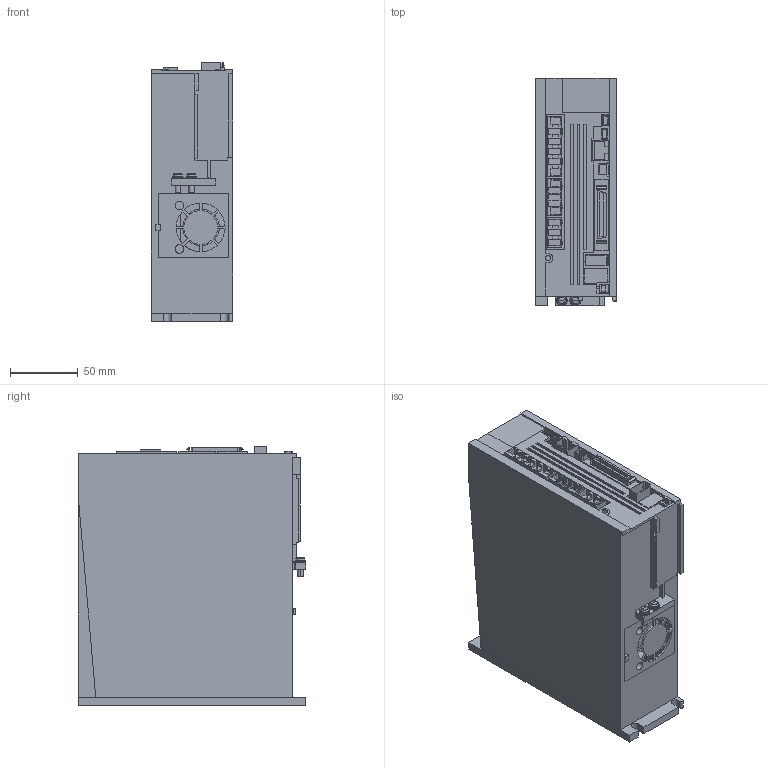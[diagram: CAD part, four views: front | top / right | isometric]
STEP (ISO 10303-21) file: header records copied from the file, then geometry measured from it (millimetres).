
FILE_DESCRIPTION((''),'2;1');
FILE_NAME('MR-J4-70AB_ASM','2012-10-31T',('CV86875'),(''),'PRO/ENGINEER BY PARAMETRIC TECHNOLOGY CORPORATION, 2010160','PRO/ENGINEER BY PARAMETRIC TECHNOLOGY CORPORATION, 2010160','');
FILE_SCHEMA(('CONFIG_CONTROL_DESIGN'));
Length unit declared in the file: millimetre
Products named in the file (17): J4-70-100B-CASE; J4-70-100-CHASSIS; J4-70-100-FANCOVER; J4-LENZ; J4A-CN1; J4A-CN2; J4A-CN3; J4A-CN4; J4A-CN5; J4A-CN6; J4A-CN8; J4-CNP1; J4-CNP2; J4-CNP3; FAN40; SW-PW-P-NA-M4X12-PE; MR-J4-70AB_ASM
Assembly tree (17 placements, depth 2):
  MR-J4-70AB_ASM
    J4-70-100B-CASE
    J4-70-100-CHASSIS
    J4-70-100-FANCOVER
    J4-LENZ
    J4A-CN1
    J4A-CN2
    J4A-CN3
    J4A-CN4
    J4A-CN5
    J4A-CN6
    J4A-CN8
    J4-CNP1
    J4-CNP2
    J4-CNP3
    FAN40
    SW-PW-P-NA-M4X12-PE  x2
Bounding box: 60 x 168 x 190.95 mm (x, y, z)
Volume: 306765.4 mm3; surface area: 223627.1 mm2
Topology: 19 solids, 19 shells, 561 faces, 1491 edges, 989 vertices
Faces by surface type: plane 475, cylinder 74, cone 4, torus 4, sphere 4
Entity records: 17222 total; most frequent: CARTESIAN_POINT 3006, ORIENTED_EDGE 2914, DIRECTION 2767, EDGE_CURVE 1457, VECTOR 1305, LINE 1305, VERTEX_POINT 970, AXIS2_PLACEMENT_3D 731
